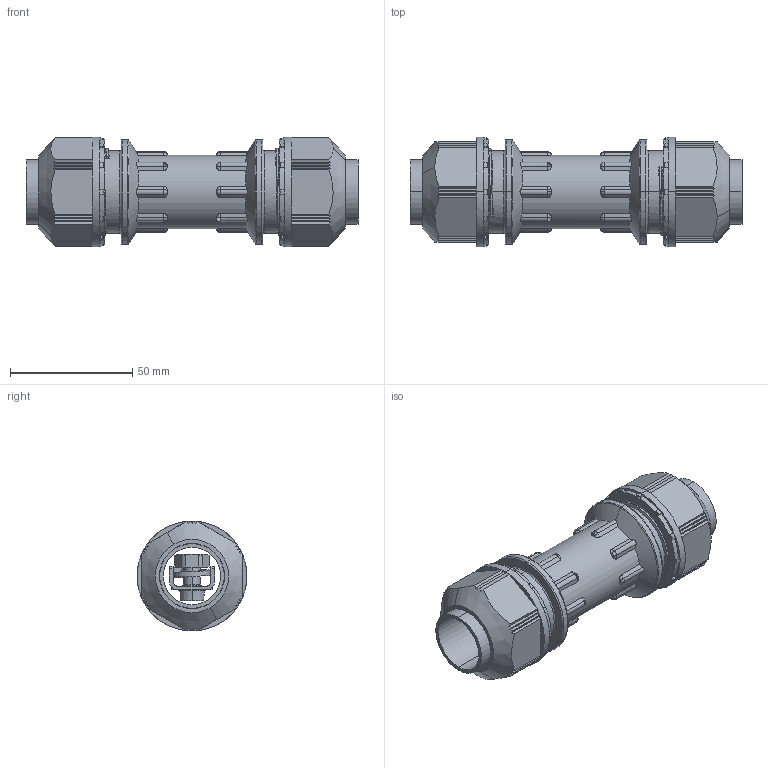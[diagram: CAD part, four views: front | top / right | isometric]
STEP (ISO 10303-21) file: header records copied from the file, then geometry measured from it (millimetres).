
FILE_DESCRIPTION(('Creo Elements/Direct Modeling STEP Export'),'2;1');
FILE_NAME('H07-0029-CL905-01_OA-QW23S.stp','2012-09-19T14:30:17',(''),(''),'Creo Elements/Direct Modeling STEP processor for AP214 (Solid Model)','Creo Elements/Direct Modeling 18.0B 02-Dec-2011 (C) Parametric Technology GmbH','');
FILE_SCHEMA(('AUTOMOTIVE_DESIGN { 1 0 10303 214 1 1 1 1 }'));
Length unit declared in the file: millimetre
Products named in the file (11): G28-23_L; L側; G28-23_R; R側; OA-QW本体; M8x12アプセットボルト; M8SW; ねじ; OA-QW20S_接続ガイド; 接続ガイド; OA-QW23S
Assembly tree (10 placements, depth 4):
  OA-QW23S
    接続ガイド
      OA-QW20S_接続ガイド
      ねじ
        M8SW
        M8x12アプセットボルト
    OA-QW本体
    R側
      G28-23_R
    L側
      G28-23_L
Bounding box: 136 x 45 x 45 mm (x, y, z)
Volume: 75409 mm3; surface area: 47809.6 mm2
Topology: 6 solids, 6 shells, 640 faces, 1606 edges, 988 vertices
Faces by surface type: plane 358, cylinder 138, cone 98, torus 20, sphere 20, bspline 6
Entity records: 22054 total; most frequent: CARTESIAN_POINT 7996, ORIENTED_EDGE 3156, DIRECTION 2420, EDGE_CURVE 1578, VERTEX_POINT 988, AXIS2_PLACEMENT_3D 838, VECTOR 744, LINE 744
